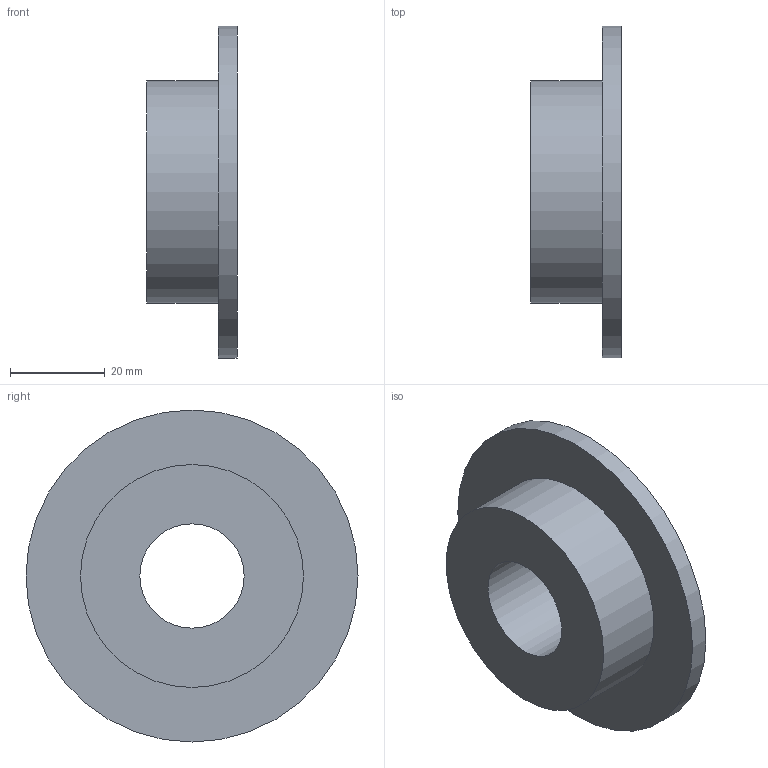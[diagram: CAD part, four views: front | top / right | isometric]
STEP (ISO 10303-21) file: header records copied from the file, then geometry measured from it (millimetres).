
FILE_DESCRIPTION(('Open CASCADE Model'),'2;1');
FILE_NAME('Open CASCADE Shape Model','2026-10-17T16:45:05',('Author'),( 'Open CASCADE'),'Open CASCADE STEP processor 8.0','build123d', 'Unknown');
FILE_SCHEMA(('AUTOMOTIVE_DESIGN { 1 0 10303 214 1 1 1 1 }'));
Length unit declared in the file: millimetre
Products named in the file (1): COMPOUND
Bounding box: 19 x 70 x 70 mm (x, y, z)
Volume: 34195.5 mm3; surface area: 11344.3 mm2
Topology: 1 solids, 1 shells, 6 faces, 9 edges, 6 vertices
Faces by surface type: cylinder 3, plane 3
Full cylindrical faces by diameter (mm): 22 x1, 47 x1, 70 x1
Entity records: 270 total; most frequent: DIRECTION 47, CARTESIAN_POINT 40, ORIENTED_EDGE 18, PCURVE 18, DEFINITIONAL_REPRESENTATION 18, LINE 15, VECTOR 15, AXIS2_PLACEMENT_3D 13
